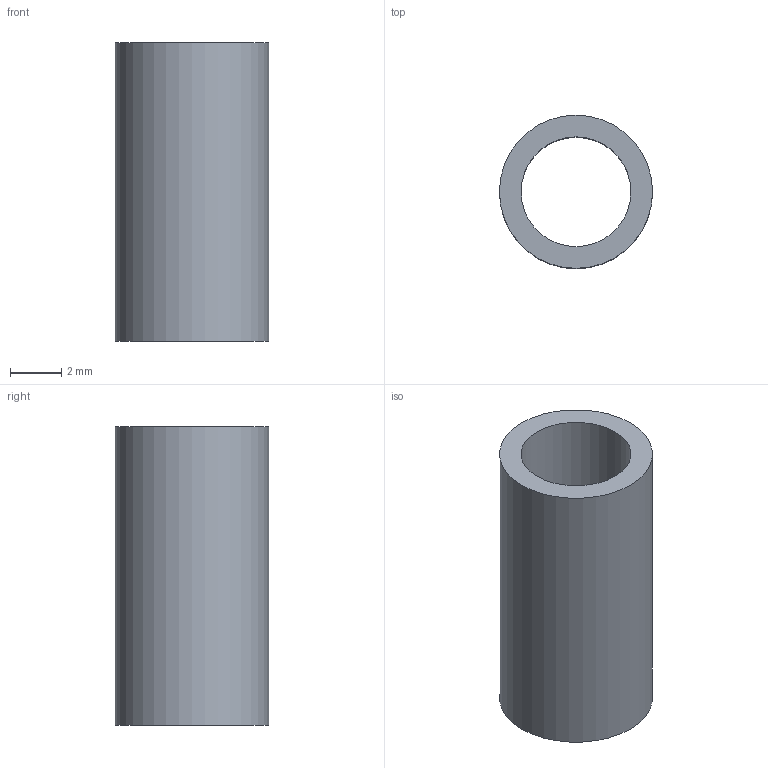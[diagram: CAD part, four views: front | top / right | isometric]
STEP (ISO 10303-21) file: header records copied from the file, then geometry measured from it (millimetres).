
FILE_DESCRIPTION(('FreeCAD Model'),'2;1');
FILE_NAME('Open CASCADE Shape Model','2026-09-19T17:54:12',('FreeCAD'),( 'FreeCAD'),'Open CASCADE STEP processor 7.8','FreeCAD','Unknown');
FILE_SCHEMA(('AUTOMOTIVE_DESIGN { 1 0 10303 214 1 1 1 1 }'));
Length unit declared in the file: millimetre
Products named in the file (1): Open CASCADE STEP translator 7.8 16
Bounding box: 6 x 6 x 11.7 mm (x, y, z)
Volume: 160.9 mm3; surface area: 406.1 mm2
Topology: 1 solids, 1 shells, 4 faces, 6 edges, 4 vertices
Faces by surface type: cylinder 2, plane 2
Full cylindrical faces by diameter (mm): 4.3 x1, 6 x1
Entity records: 108 total; most frequent: DIRECTION 20, CARTESIAN_POINT 15, ORIENTED_EDGE 12, AXIS2_PLACEMENT_3D 9, FACE_BOUND 6, EDGE_LOOP 6, EDGE_CURVE 6, ADVANCED_FACE 4
